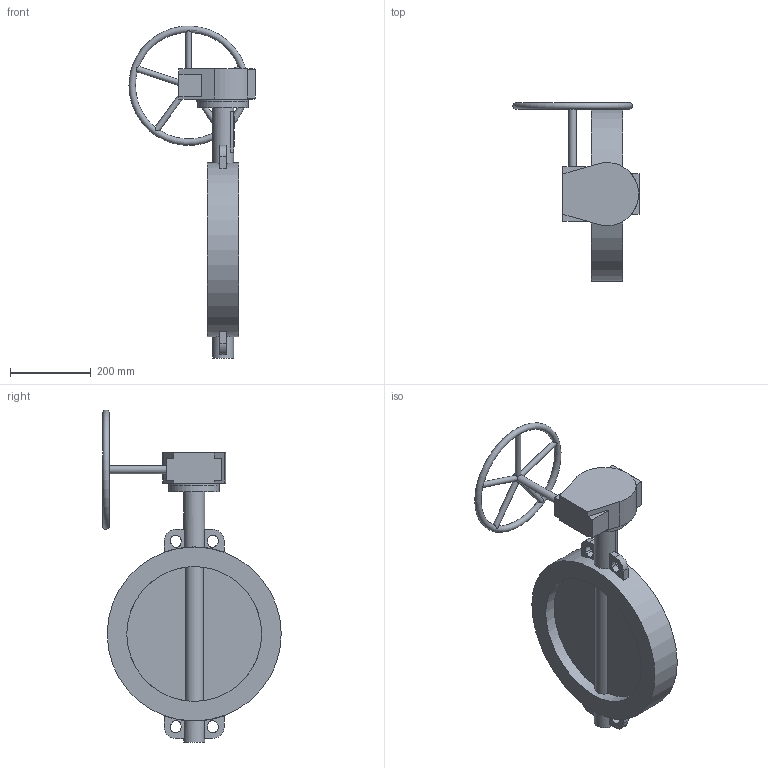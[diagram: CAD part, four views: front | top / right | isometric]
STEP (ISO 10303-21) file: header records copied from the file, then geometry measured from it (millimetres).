
FILE_DESCRIPTION(('STEP AP203'), '1');
FILE_NAME('Çàòâîð 017W.Z(÷óãóí) DN350 PN10_16 ðåäóêòîð', '', ('UNSPECIFIED'), ('UNSPECIFIED'), 'ASCON STEP Converter 1.6', 'ASCON Math Kernel', '');
FILE_SCHEMA(('CONFIG_CONTROL_DESIGN'));
Length unit declared in the file: millimetre
Bounding box: 311.49 x 441 x 820.49 mm (x, y, z)
Volume: 2232772.9 mm3; surface area: 734072.8 mm2
Topology: 1 solids, 2 shells, 850 faces, 2524 edges, 1628 vertices
Faces by surface type: cylinder 635, plane 214, torus 1
Full cylindrical faces by diameter (mm): 8.5 x4, 12 x4, 14 x5, 20 x2, 31.6 x1, 52 x2, 70 x1, 125 x2, 333.3 x2, 430 x1
Entity records: 38262 total; most frequent: CARTESIAN_POINT 7515, DIRECTION 5498, ORIENTED_EDGE 4920, EDGE_CURVE 2499, AXIS2_PLACEMENT_3D 2187, VERTEX_POINT 1627, CIRCLE 1336, LINE 1124
